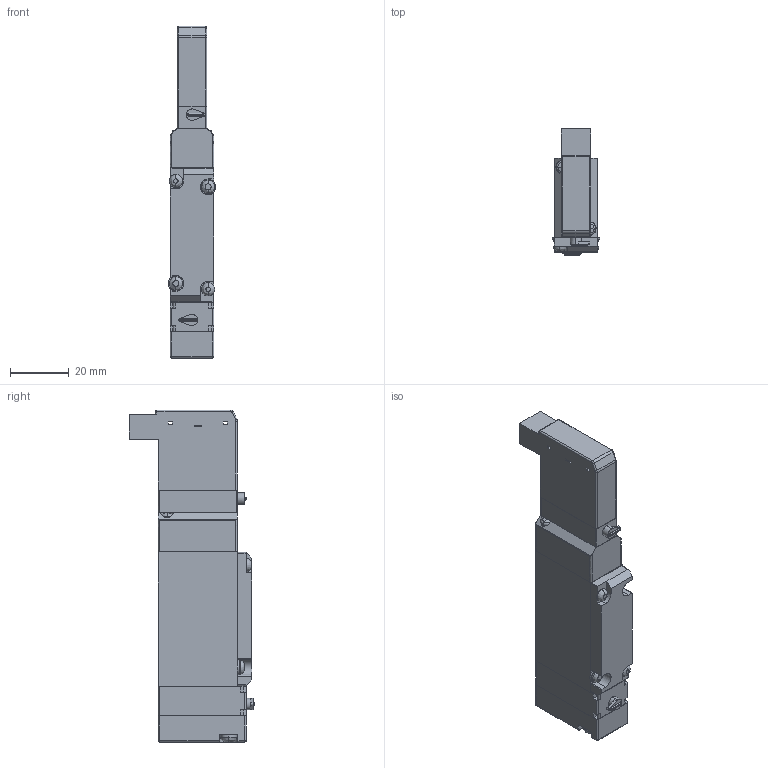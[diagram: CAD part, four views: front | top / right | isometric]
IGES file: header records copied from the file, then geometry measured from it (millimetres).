
Start section: ------------------------------------------------------------------------
Global section: file name: D:\ICADMX\tmp\trans3d_spg\CVICAD02.7120.F15T3-R-A1_17161.igs; native system: spGate; preprocessor: ver12.6.6; author: Unknown; organization: Unknown; date: 210712.185043; units: millimetre
Bounding box: 16.2 x 42.99 x 113.5 mm (x, y, z)
Volume: 45152.8 mm3; surface area: 17244.3 mm2
Topology: 7 solids, 7 shells, 310 faces, 782 edges, 485 vertices
Faces by surface type: bspline 310
